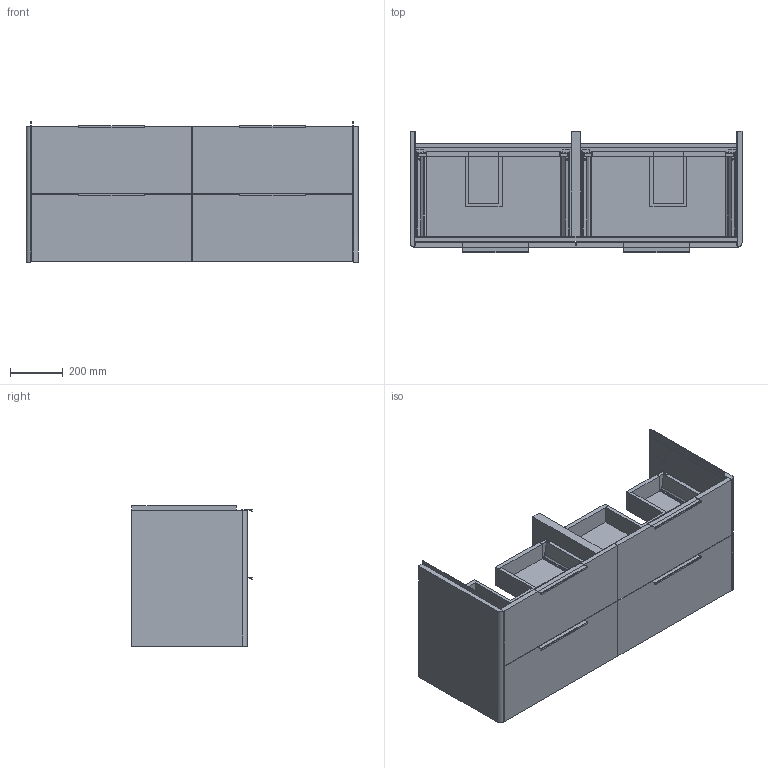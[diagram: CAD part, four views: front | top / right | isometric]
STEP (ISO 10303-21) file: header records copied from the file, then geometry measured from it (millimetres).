
FILE_DESCRIPTION(/* description */ (''),/* implementation_level */ '2;1');
FILE_NAME(/* name */ '3DC238~1',/* time_stamp */ '2018-05-07T13:33:39+02:00',/* author */ (''),/* organization */ (''),/* preprocessor_version */ 'ST-DEVELOPER v15',/* originating_system */ '',/* authorisation */ '');
FILE_SCHEMA (('AUTOMOTIVE_DESIGN'));
Length unit declared in the file: millimetre
Products named in the file (40): Document; Maniglia 2; Maniglia; Scheletro monoblocco curvo 1258_59; Scheletro monoblocco curvo 1258_58; Scheletro monoblocco curvo 1258_56; Scheletro monoblocco curvo 1258_55; Scheletro monoblocco curvo 1258_53; Scheletro monoblocco curvo 1258_52; Scheletro monoblocco curvo 1258_48; Scheletro monoblocco curvo 1258_47; Scheletro monoblocco curvo 1258_45; Scheletro monoblocco curvo 1258_44; Scheletro monoblocco curvo 1258_42; Scheletro monoblocco curvo 1258_39; Scheletro monoblocco curvo 1258_38; Scheletro monoblocco curvo 1258_37; Scheletro monoblocco curvo 1258_36; Scheletro monoblocco curvo 1258_35; Scheletro monoblocco curvo 1258_33; Scheletro monoblocco curvo 1258_32; Scheletro monoblocco curvo 1258_31; Scheletro monoblocco curvo 1258_30; Scheletro monoblocco curvo 1258_27; Scheletro monoblocco curvo 1258_26; Scheletro monoblocco curvo 1258_25; Scheletro monoblocco curvo 1258_23; Scheletro monoblocco curvo 1258_22; Scheletro monoblocco curvo 1258_20; Scheletro monoblocco curvo 1258_19; Scheletro monoblocco curvo 1258_17; Scheletro monoblocco curvo 1258_15; Scheletro monoblocco curvo 1258_14; Scheletro monoblocco curvo 1258_12; Scheletro monoblocco curvo 1258_11; Scheletro monoblocco curvo 1258_9; Scheletro monoblocco curvo 1258_8; Scheletro monoblocco curvo 1258_7; Scheletro monoblocco curvo 1258_6; Scheletro monoblocco curvo 1258_3
Assembly tree (39 placements, depth 2):
  Document
    Maniglia 2
    Maniglia
    Scheletro monoblocco curvo 1258_59
    Scheletro monoblocco curvo 1258_58
    Scheletro monoblocco curvo 1258_56
    Scheletro monoblocco curvo 1258_55
    Scheletro monoblocco curvo 1258_53
    Scheletro monoblocco curvo 1258_52
    Scheletro monoblocco curvo 1258_48
    Scheletro monoblocco curvo 1258_47
    Scheletro monoblocco curvo 1258_45
    Scheletro monoblocco curvo 1258_44
    Scheletro monoblocco curvo 1258_42
    Scheletro monoblocco curvo 1258_39
    Scheletro monoblocco curvo 1258_38
    Scheletro monoblocco curvo 1258_37
    Scheletro monoblocco curvo 1258_36
    Scheletro monoblocco curvo 1258_35
    Scheletro monoblocco curvo 1258_33
    Scheletro monoblocco curvo 1258_32
    Scheletro monoblocco curvo 1258_31
    Scheletro monoblocco curvo 1258_30
    Scheletro monoblocco curvo 1258_27
    Scheletro monoblocco curvo 1258_26
    Scheletro monoblocco curvo 1258_25
    Scheletro monoblocco curvo 1258_23
    Scheletro monoblocco curvo 1258_22
    Scheletro monoblocco curvo 1258_20
    Scheletro monoblocco curvo 1258_19
    Scheletro monoblocco curvo 1258_17
    Scheletro monoblocco curvo 1258_15
    Scheletro monoblocco curvo 1258_14
    Scheletro monoblocco curvo 1258_12
    Scheletro monoblocco curvo 1258_11
    Scheletro monoblocco curvo 1258_9
    Scheletro monoblocco curvo 1258_8
    Scheletro monoblocco curvo 1258_7
    Scheletro monoblocco curvo 1258_6
    Scheletro monoblocco curvo 1258_3
Bounding box: 1258 x 458.1 x 531 mm (x, y, z)
Volume: 54212933.5 mm3; surface area: 7192924.5 mm2
Topology: 43 solids, 43 shells, 1452 faces, 4124 edges, 2822 vertices
Faces by surface type: plane 1109, bspline 343
Entity records: 46774 total; most frequent: CARTESIAN_POINT 18687, ORIENTED_EDGE 8248, EDGE_CURVE 4124, B_SPLINE_CURVE_WITH_KNOTS 3188, VERTEX_POINT 2822, EDGE_LOOP 1652, ADVANCED_FACE 1452, FACE_OUTER_BOUND 1452
